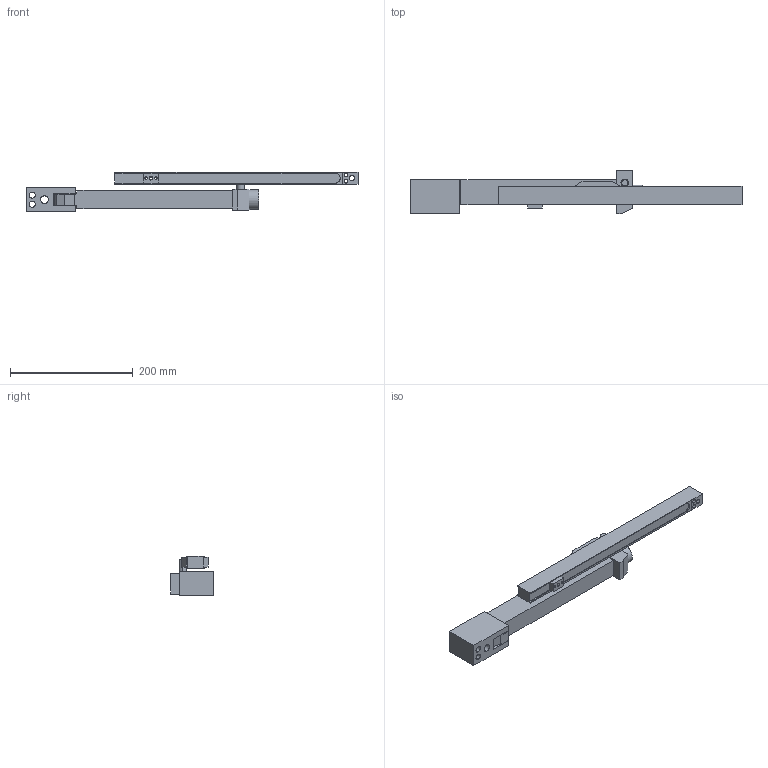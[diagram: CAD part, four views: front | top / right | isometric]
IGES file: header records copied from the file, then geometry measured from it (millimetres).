
Start section: START RECORD GO HERE.
Global section: file name: BOX400FIX.igs; native system: DASSAULT SYSTEMES CATIA V5 R20 - www.3ds.com; preprocessor: CATIA Version 5 Release 20 ; author: Utente; organization: NB04-ASUS; date: 20210221.175321; units: millimetre
Bounding box: 540.5 x 70 x 65 mm (x, y, z)
Surface area: 130325.6 mm2 (no closed solid volume)
Topology: 0 solids, 0 shells, 129 faces, 764 edges, 762 vertices
Faces by surface type: plane 72, revolution 57
